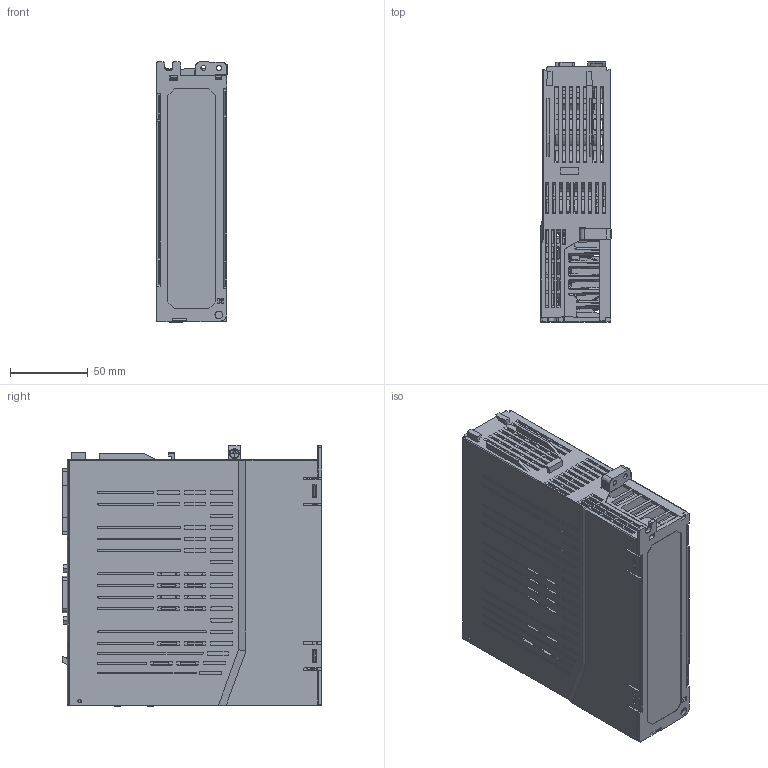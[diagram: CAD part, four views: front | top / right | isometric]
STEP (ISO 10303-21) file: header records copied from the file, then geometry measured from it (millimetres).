
FILE_DESCRIPTION((''),'2;1');
FILE_NAME('30068499_CMMR-AS-B-C3-3A-EC-S0','2026-01-26T11:21:20',('ru0tay'),(''),'CREO PARAMETRIC BY PTC INC, 2020414','CREO PARAMETRIC BY PTC INC, 2020414','');
FILE_SCHEMA(('CONFIG_CONTROL_DESIGN'));
Products named in the file (1): 30068499_CMMR-AS-B-C3-3A-EC-S0
Bounding box: 45.35 x 166.75 x 167.07 mm (x, y, z)
Volume: 163636.5 mm3; surface area: 326616.5 mm2
Topology: 4 solids, 6 shells, 3978 faces, 11040 edges, 7062 vertices
Faces by surface type: plane 2456, cylinder 817, bspline 286, cone 162, extrusion 128, sphere 66, torus 63
Entity records: 141848 total; most frequent: CARTESIAN_POINT 42731, ORIENTED_EDGE 21856, DIRECTION 18297, EDGE_CURVE 10943, VECTOR 7971, LINE 7843, VERTEX_POINT 7062, AXIS2_PLACEMENT_3D 5163
